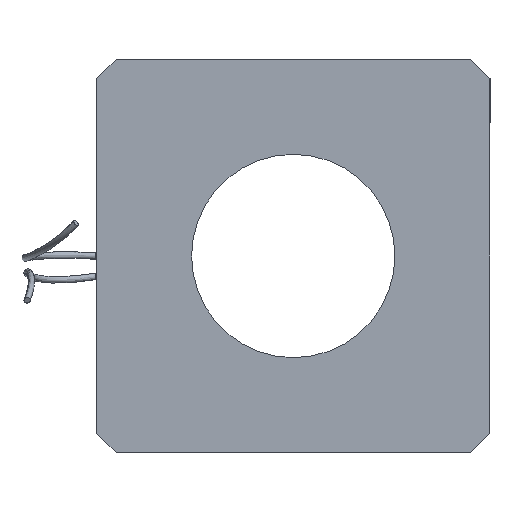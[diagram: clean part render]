
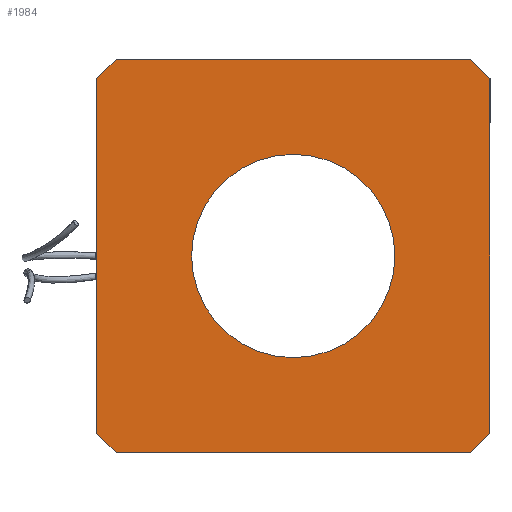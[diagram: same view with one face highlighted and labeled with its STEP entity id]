
A CAD part, left-side view. The second image highlights one B-rep face of the part: STEP entity #1984.
In plain terms, the highlighted planar face has unit normal (-1, 0, 0).
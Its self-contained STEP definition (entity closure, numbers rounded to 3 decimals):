
#35 = VECTOR ( 'NONE', #724, 1000. ) ;
#144 = EDGE_CURVE ( 'NONE', #1038, #3382, #2256, .T. ) ;
#161 = EDGE_CURVE ( 'NONE', #1807, #1240, #3550, .T. ) ;
#166 = EDGE_CURVE ( 'NONE', #2824, #2802, #738, .T. ) ;
#182 = EDGE_LOOP ( 'NONE', ( #2667, #541 ) ) ;
#196 = CARTESIAN_POINT ( 'NONE',  ( -36., 27., -30. ) ) ;
#209 = EDGE_CURVE ( 'NONE', #3373, #1837, #3152, .T. ) ;
#217 = EDGE_CURVE ( 'NONE', #1229, #2844, #1800, .T. ) ;
#223 = CARTESIAN_POINT ( 'NONE',  ( -36., 27., 30. ) ) ;
#226 = VECTOR ( 'NONE', #2022, 1000. ) ;
#253 = CARTESIAN_POINT ( 'NONE',  ( -36., -30., -27. ) ) ;
#352 = DIRECTION ( 'NONE',  ( 1., 0., 0. ) ) ;
#398 = PLANE ( 'NONE',  #2575 ) ;
#516 = LINE ( 'NONE', #784, #3331 ) ;
#541 = ORIENTED_EDGE ( 'NONE', *, *, #2269, .T. ) ;
#563 = CARTESIAN_POINT ( 'NONE',  ( -36., -27., 30. ) ) ;
#651 = EDGE_CURVE ( 'NONE', #2824, #1240, #1210, .T. ) ;
#656 = VECTOR ( 'NONE', #2371, 1000. ) ;
#663 = CIRCLE ( 'NONE', #1283, 15.5 ) ;
#720 = DIRECTION ( 'NONE',  ( 0., 0., 1. ) ) ;
#724 = DIRECTION ( 'NONE',  ( 0., -1., 0. ) ) ;
#734 = EDGE_CURVE ( 'NONE', #1807, #2844, #516, .T. ) ;
#738 = LINE ( 'NONE', #2362, #2788 ) ;
#784 = CARTESIAN_POINT ( 'NONE',  ( -36., 30., 30. ) ) ;
#873 = CARTESIAN_POINT ( 'NONE',  ( -36., 0., 15.5 ) ) ;
#1009 = CARTESIAN_POINT ( 'NONE',  ( -36., -30., 30. ) ) ;
#1032 = VECTOR ( 'NONE', #2230, 1000. ) ;
#1038 = VERTEX_POINT ( 'NONE', #1833 ) ;
#1058 = EDGE_CURVE ( 'NONE', #1229, #1837, #2446, .T. ) ;
#1194 = LINE ( 'NONE', #1009, #3282 ) ;
#1210 = LINE ( 'NONE', #1601, #2605 ) ;
#1229 = VERTEX_POINT ( 'NONE', #223 ) ;
#1240 = VERTEX_POINT ( 'NONE', #196 ) ;
#1283 = AXIS2_PLACEMENT_3D ( 'NONE', #2044, #352, #2316 ) ;
#1363 = CARTESIAN_POINT ( 'NONE',  ( -36., 30., 27. ) ) ;
#1400 = ORIENTED_EDGE ( 'NONE', *, *, #217, .T. ) ;
#1412 = ORIENTED_EDGE ( 'NONE', *, *, #161, .T. ) ;
#1441 = DIRECTION ( 'NONE',  ( 0., 1., 0. ) ) ;
#1464 = EDGE_CURVE ( 'NONE', #3373, #2802, #1194, .T. ) ;
#1502 = DIRECTION ( 'NONE',  ( 1., 0., 0. ) ) ;
#1570 = EDGE_LOOP ( 'NONE', ( #3309, #1412, #2967, #2541, #2521, #3001, #1619, #1400 ) ) ;
#1601 = CARTESIAN_POINT ( 'NONE',  ( -36., 30., -30. ) ) ;
#1619 = ORIENTED_EDGE ( 'NONE', *, *, #1058, .F. ) ;
#1800 = LINE ( 'NONE', #2065, #226 ) ;
#1807 = VERTEX_POINT ( 'NONE', #3064 ) ;
#1833 = CARTESIAN_POINT ( 'NONE',  ( -36., 0., -15.5 ) ) ;
#1837 = VERTEX_POINT ( 'NONE', #563 ) ;
#1984 = ADVANCED_FACE ( 'NONE', ( #3093, #2388 ), #398, .F. ) ;
#2022 = DIRECTION ( 'NONE',  ( 0., 0.707, -0.707 ) ) ;
#2044 = CARTESIAN_POINT ( 'NONE',  ( -36., 0., 0. ) ) ;
#2065 = CARTESIAN_POINT ( 'NONE',  ( -36., 30., 27. ) ) ;
#2103 = CARTESIAN_POINT ( 'NONE',  ( -36., -27., 30. ) ) ;
#2230 = DIRECTION ( 'NONE',  ( 0., 0.707, 0.707 ) ) ;
#2256 = CIRCLE ( 'NONE', #2714, 15.5 ) ;
#2269 = EDGE_CURVE ( 'NONE', #3382, #1038, #663, .T. ) ;
#2315 = DIRECTION ( 'NONE',  ( 0., -0.707, 0.707 ) ) ;
#2316 = DIRECTION ( 'NONE',  ( 0., 0., -1. ) ) ;
#2355 = CARTESIAN_POINT ( 'NONE',  ( -36., 27., -30. ) ) ;
#2362 = CARTESIAN_POINT ( 'NONE',  ( -36., -30., -27. ) ) ;
#2371 = DIRECTION ( 'NONE',  ( 0., -0.707, -0.707 ) ) ;
#2385 = DIRECTION ( 'NONE',  ( 0., 0., -1. ) ) ;
#2388 = FACE_OUTER_BOUND ( 'NONE', #1570, .T. ) ;
#2396 = CARTESIAN_POINT ( 'NONE',  ( -36., 0., 0. ) ) ;
#2408 = DIRECTION ( 'NONE',  ( 1., 0., 0. ) ) ;
#2446 = LINE ( 'NONE', #2898, #35 ) ;
#2521 = ORIENTED_EDGE ( 'NONE', *, *, #1464, .F. ) ;
#2541 = ORIENTED_EDGE ( 'NONE', *, *, #166, .T. ) ;
#2575 = AXIS2_PLACEMENT_3D ( 'NONE', #3148, #1502, #3388 ) ;
#2605 = VECTOR ( 'NONE', #1441, 1000. ) ;
#2667 = ORIENTED_EDGE ( 'NONE', *, *, #144, .T. ) ;
#2714 = AXIS2_PLACEMENT_3D ( 'NONE', #2396, #2408, #2385 ) ;
#2788 = VECTOR ( 'NONE', #2315, 1000. ) ;
#2802 = VERTEX_POINT ( 'NONE', #253 ) ;
#2809 = CARTESIAN_POINT ( 'NONE',  ( -36., -30., 27. ) ) ;
#2824 = VERTEX_POINT ( 'NONE', #3258 ) ;
#2844 = VERTEX_POINT ( 'NONE', #1363 ) ;
#2898 = CARTESIAN_POINT ( 'NONE',  ( -36., 30., 30. ) ) ;
#2967 = ORIENTED_EDGE ( 'NONE', *, *, #651, .F. ) ;
#3001 = ORIENTED_EDGE ( 'NONE', *, *, #209, .T. ) ;
#3064 = CARTESIAN_POINT ( 'NONE',  ( -36., 30., -27. ) ) ;
#3093 = FACE_BOUND ( 'NONE', #182, .T. ) ;
#3148 = CARTESIAN_POINT ( 'NONE',  ( -36., 0., 0. ) ) ;
#3152 = LINE ( 'NONE', #2103, #1032 ) ;
#3213 = DIRECTION ( 'NONE',  ( 0., 0., -1. ) ) ;
#3258 = CARTESIAN_POINT ( 'NONE',  ( -36., -27., -30. ) ) ;
#3282 = VECTOR ( 'NONE', #3213, 1000. ) ;
#3309 = ORIENTED_EDGE ( 'NONE', *, *, #734, .F. ) ;
#3331 = VECTOR ( 'NONE', #720, 1000. ) ;
#3373 = VERTEX_POINT ( 'NONE', #2809 ) ;
#3382 = VERTEX_POINT ( 'NONE', #873 ) ;
#3388 = DIRECTION ( 'NONE',  ( 0., 0., -1. ) ) ;
#3550 = LINE ( 'NONE', #2355, #656 ) ;
